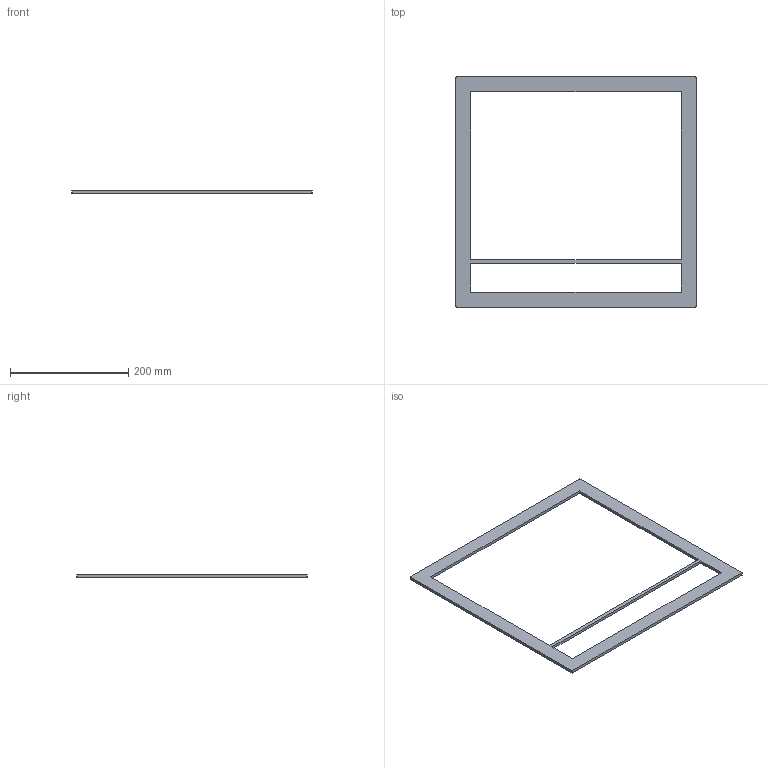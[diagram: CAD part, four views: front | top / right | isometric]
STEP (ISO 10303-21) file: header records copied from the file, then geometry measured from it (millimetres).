
FILE_DESCRIPTION(('CAx-IF Rec.Pracs.---Model Styling and Organization---1.2---2011-12-15','CAx-IF Rec.Pracs.---Geometric and Assembly Validation Properties---4.1---2014-06-16','CAx-IF Rec.Pracs.---PMI Polyline Presentation---2.0---2013-05-24'),'2;1');
FILE_NAME('Рамка YON 2500.stp','2021-07-13T11:41:45+03:00',(''),(''),'STEP Interface 4.4 by CT CoreTechnologie','3D_Evolution4.4 by CT CoreTechnologie','');
FILE_SCHEMA(('AUTOMOTIVE_DESIGN { 1 0 10303 214 1 1 1 1 }'));
Length unit declared in the file: millimetre
Products named in the file (1): Рамка YON 2500
Bounding box: 406 x 388.8 x 5 mm (x, y, z)
Surface area: 97137.7 mm2 (no closed solid volume)
Topology: 0 solids, 1 shells, 18 faces, 48 edges, 32 vertices
Faces by surface type: plane 14, cylinder 4
Entity records: 1133 total; most frequent: CARTESIAN_POINT 99, ORIENTED_EDGE 96, DIRECTION 94, PROPERTY_DEFINITION 70, REPRESENTATION 52, GENERAL_PROPERTY 52, PROPERTY_DEFINITION_REPRESENTATION 52, GENERAL_PROPERTY_ASSOCIATION 52
